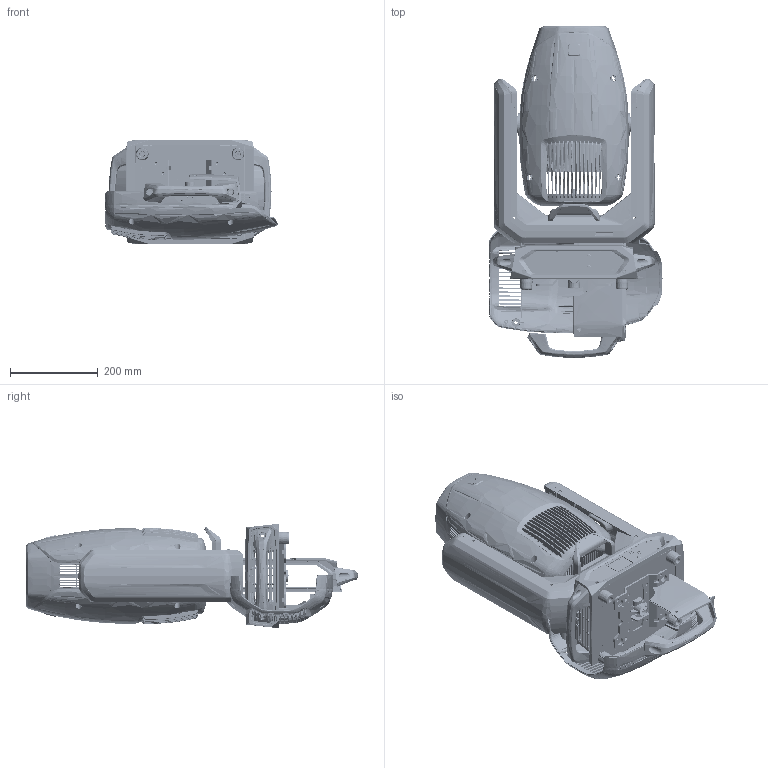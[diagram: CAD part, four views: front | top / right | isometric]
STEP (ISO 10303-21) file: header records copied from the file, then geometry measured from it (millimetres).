
FILE_DESCRIPTION(('HOOPS Exchange Step'),'2;1');
FILE_NAME('E:\cdb\hoops_acs\acs\9788\78247\015182-4-Light Fixture.step','2024-06-12T15:38:11+02:00',('caddok'),('Unknown organisation'),'HOOPS Exchange 2024.0','HOOPS Exchange','Unknown authorisation');
FILE_SCHEMA( ('AP242_MANAGED_MODEL_BASED_3D_ENGINEERING_MIM_LF {1 0 10303 442 1 1 4 }') );
Length unit declared in the file: millimetre
Products named in the file (46): LJ-S72208-28-1; LJ-S70712-14-1; LJ-S70712-13-1; LJ-S70710-87-1; ZJ-S72208-DIBAN-00_ASM-1; LJ-S72208-26-1; S72208-02B-1; OLED-1P9CUN-1; S72208-06B-1; EVA-13MM-1; ZJ-S72208-XSMB-00_ASM-1; LJ-S72208-27-1; ZJ-S72208-DYCZKN-00_ASM-1; LJ-S72208-59-1; LJ-S72208-60-1; LJ-S72208-61-1; ZJ-S72208-COV-DZ-00_ASM-1; LJ-S70710-86-1; LA7112-55-1; S70710-DJ_ASM-1; ZJ-S72208-KSB-DG-00_ASM-1; ZJ-S72208-DIZUO-00-00_ASM-1; LJ-S72202-25-1; ZJ-S72205-02_ASM-1; ZJ-S72208-CZZU-01_ASM-1; LJ-S72205-85-1; ZJ-S72205-03-7050001303_ASM-1; ZJ-S72208-CZZU-00_ASM-1; LJ-S72208-54-1; LJ-S72208-55-1; LJ-S72208-57-1; LJ-S72208-56-1; LJ-S72208-58-1; LJ-S72208-COV-BI-00_ASM-1; ZJ-S72208-SHOUBI-00-00_ASM-1; LJ-S72208-04-1; LJ-S72208-01-1; ZJ-S72208-DT-00_ASM-1; LJ-S72208-51-1; LJ-S72208-52-1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
Assembly tree (60 placements, depth 6):
  015182-4-Light Fixture
    Standard
      ZJ-S72208-DIZUO-00-00_ASM-1
        ZJ-S72208-DIBAN-00_ASM-1
          LJ-S72208-28-1
          LJ-S70712-14-1  x4
          LJ-S70712-13-1  x4
          LJ-S70710-87-1
        ZJ-S72208-XSMB-00_ASM-1
          LJ-S72208-26-1
          S72208-02B-1
          OLED-1P9CUN-1
          S72208-06B-1
          EVA-13MM-1
        ZJ-S72208-DYCZKN-00_ASM-1
          LJ-S72208-27-1
        ZJ-S72208-COV-DZ-00_ASM-1
          LJ-S72208-59-1  x2
          LJ-S72208-60-1  x2
          LJ-S72208-61-1  x2
        ZJ-S72208-KSB-DG-00_ASM-1
          S70710-DJ_ASM-1
            LJ-S70710-86-1
            LA7112-55-1  x4
      ZJ-S72208-SHOUBI-00-00_ASM-1
        ZJ-S72208-CZZU-01_ASM-1
          ZJ-S72205-02_ASM-1
            LJ-S72202-25-1
        ZJ-S72208-CZZU-00_ASM-1
          ZJ-S72205-03-7050001303_ASM-1
            LJ-S72205-85-1
        LJ-S72208-COV-BI-00_ASM-1
          LJ-S72208-54-1
          LJ-S72208-55-1
          LJ-S72208-57-1
          LJ-S72208-56-1
          LJ-S72208-58-1  x2
      ZJ-S72208-TOUBU-00-00_ASM-1
        ZJ-S72208-DT-00_ASM-1
          LJ-S72208-04-1
          LJ-S72208-01-1
        LJ-S72208-COV-TOU-00_ASM-1
          LJ-S72208-51-1  x2
          LJ-S72208-52-1
          LJ-S72208-53-1
        LJ-S71603-43-1  x2
Bounding box: 394.48 x 756.75 x 238.17 mm (x, y, z)
Volume: 3908398.9 mm3; surface area: 2641220.3 mm2
Topology: 53 solids, 53 shells, 14795 faces, 40485 edges, 25559 vertices
Faces by surface type: bspline 6192, plane 5047, cylinder 2723, extrusion 498, cone 335
Full cylindrical faces by diameter (mm): 1 x4, 1.664 x2, 1.7 x2, 2.5 x11, 2.522 x1, 3 x8, 3.2 x10, 3.3 x20, 3.5 x36, 4 x18, 4.2 x45, 4.5 x47, 5 x14, 5.4 x12, 6 x2, 6.5 x8, 7 x4, 7.5 x9, 8 x1, 8.2 x4, 8.5 x12, 9 x3, 10 x8, 11 x4, 12 x4, 13 x6, 16 x1, 17 x5, 18 x4, 22.5 x2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
Entity records: 566296 total; most frequent: CARTESIAN_POINT 388686, ORIENTED_EDGE 43560, DIRECTION 25690, EDGE_CURVE 21780, VERTEX_POINT 13835, VECTOR 9618, B_SPLINE_CURVE_WITH_KNOTS 9552, LINE 9314
